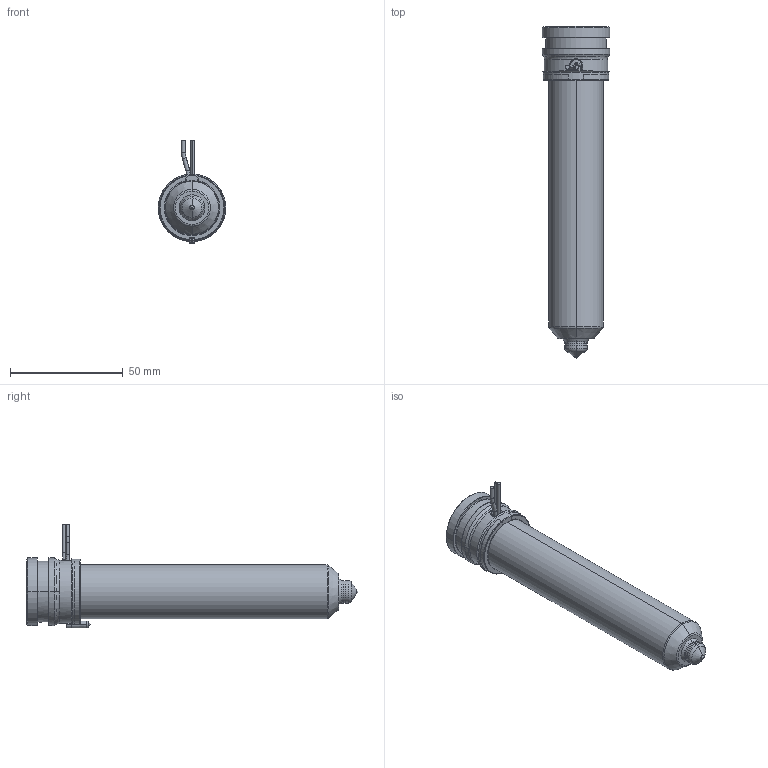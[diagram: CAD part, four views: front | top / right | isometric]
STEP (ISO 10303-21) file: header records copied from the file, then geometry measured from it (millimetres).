
FILE_DESCRIPTION((''),'2;1');
FILE_NAME('MPN-10-29-TX10-126-A','2026-02-11T11:17:25',('UVRWS'),('Thermoplay S.p.A.'),'CREO PARAMETRIC BY PTC INC, 2023494','CREO PARAMETRIC BY PTC INC, 2023494','');
FILE_SCHEMA(('CONFIG_CONTROL_DESIGN','SHAPE_APPEARANCE_LAYERS_GROUPS'));
Length unit declared in the file: millimetre
Products named in the file (1): MPN-10-29-TX10-126-A
Bounding box: 30 x 147.5 x 46 mm (x, y, z)
Volume: 46006 mm3; surface area: 46165.3 mm2
Topology: 2 solids, 3 shells, 551 faces, 1455 edges, 899 vertices
Faces by surface type: cylinder 180, plane 143, bspline 79, torus 68, cone 66, sphere 11, extrusion 4
Entity records: 28092 total; most frequent: CARTESIAN_POINT 11736, ORIENTED_EDGE 2894, DIRECTION 2641, EDGE_CURVE 1447, AXIS2_PLACEMENT_3D 1045, VERTEX_POINT 899, EDGE_LOOP 580, CIRCLE 576
